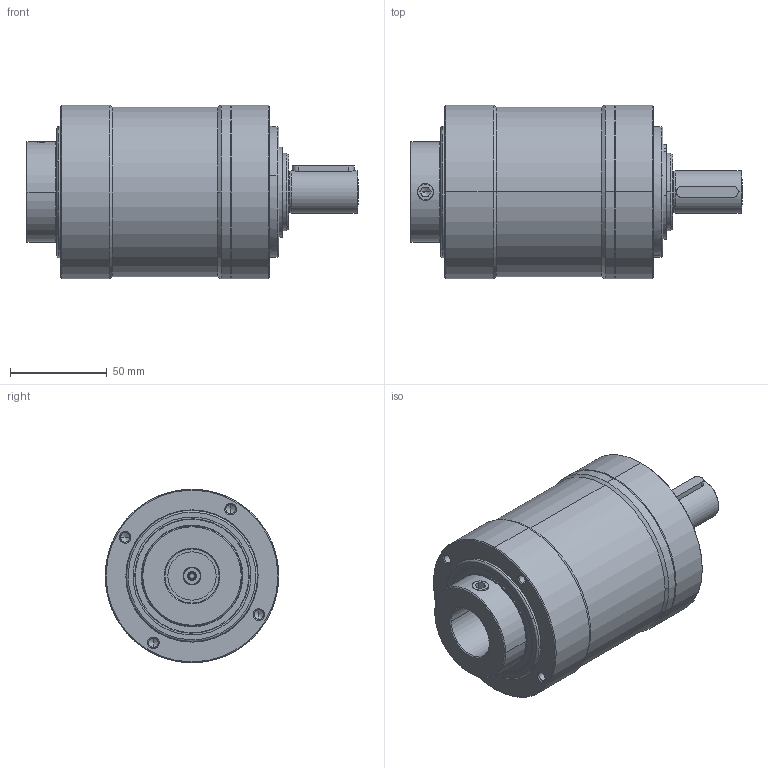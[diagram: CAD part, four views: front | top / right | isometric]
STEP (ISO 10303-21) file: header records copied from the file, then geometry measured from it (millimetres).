
FILE_DESCRIPTION (( 'STEP AP214' ), '1' );
FILE_NAME ('RPL090 2-ST.STEP', '2023-07-26T14:45:20', ( '' ), ( '' ), 'SwSTEP 2.0', 'SolidWorks 2021', '' );
FILE_SCHEMA (( 'AUTOMOTIVE_DESIGN' ));
Length unit declared in the file: millimetre
Products named in the file (1): RPL090 2-ST
Bounding box: 172 x 90 x 90 mm (x, y, z)
Volume: 727626.1 mm3; surface area: 57788.4 mm2
Topology: 1 solids, 1 shells, 215 faces, 490 edges, 289 vertices
Faces by surface type: cone 84, cylinder 76, plane 41, bspline 10, torus 4
Entity records: 8690 total; most frequent: CARTESIAN_POINT 1558, DIRECTION 1123, ORIENTED_EDGE 940, EDGE_CURVE 470, AXIS2_PLACEMENT_3D 468, VERTEX_POINT 289, CIRCLE 262, EDGE_LOOP 247
